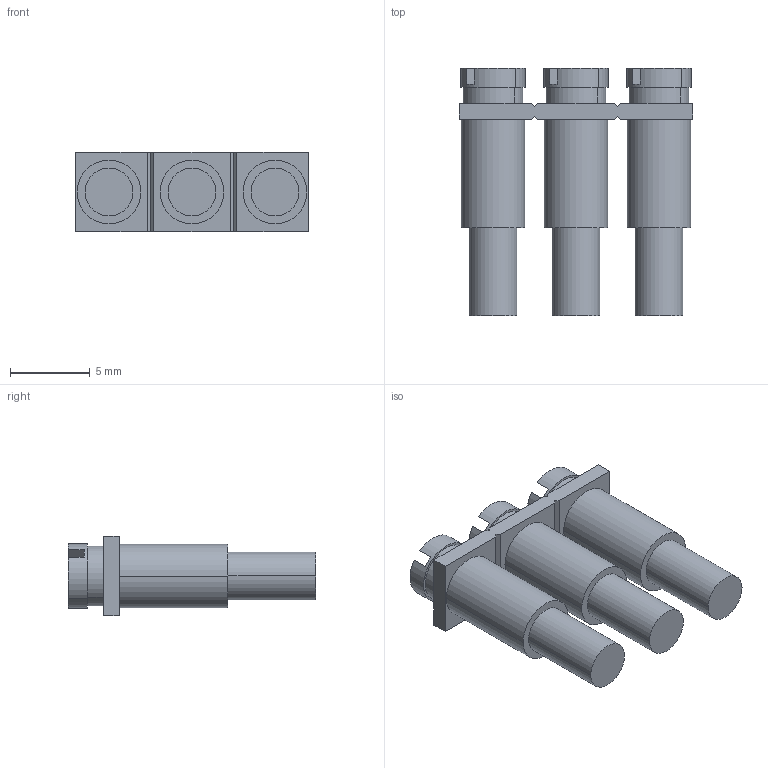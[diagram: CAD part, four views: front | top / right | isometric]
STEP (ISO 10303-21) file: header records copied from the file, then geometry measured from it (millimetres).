
FILE_DESCRIPTION( ('This file contains a STEP AP42 implementation' ,'as created by ZW3D STEP Interface translator.') ,'2;1' );
FILE_NAME( 'FBRIN_3_5.stp' ,'23 729.1337 2', (''), ('ZWCAD Software Co.'), 'Version 1.0', 'ZW3D to STEP translator', '' );
FILE_SCHEMA(('AUTOMOTIVE_DESIGN { 1 0 10303 214 1 1 1 1 }'));
Length unit declared in the file: millimetre
Products named in the file (2): 0; FBRN_10_5-select
Bounding box: 14.6 x 15.5 x 5 mm (x, y, z)
Volume: 516.2 mm3; surface area: 711.9 mm2
Topology: 1 solids, 1 shells, 66 faces, 156 edges, 104 vertices
Faces by surface type: plane 42, cylinder 24
Entity records: 2016 total; most frequent: DIRECTION 350, CARTESIAN_POINT 327, ORIENTED_EDGE 312, EDGE_CURVE 156, AXIS2_PLACEMENT_3D 127, VERTEX_POINT 104, VECTOR 96, LINE 96
